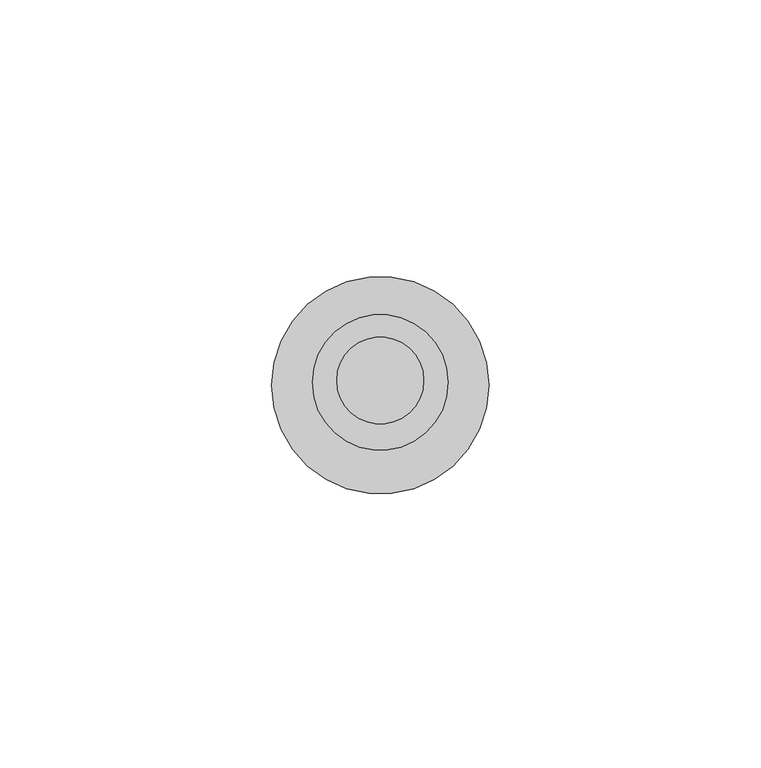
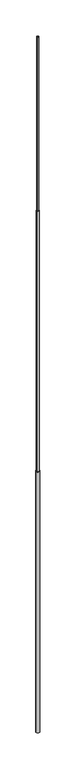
"""IFC4 building model written with IfcOpenShell, lengths in millimetres: proxy geometry, КНС_МачтаМолниеприемная_DKC : NL8000_СтальНержавеющая_8м."""

from ifc_helpers import new_model, si_unit, point, frame, origin, origin_with_axes, origin_2d, place, context, project, spatial, circle_curve, trimmed, segment, composite_curve, outline, extrude, source, transform, mapped, element, save


def security_devices_0df7b225(model_context):
    return source(origin(), model_context, "Body", "SweptSolid", [
        extrude(outline(composite_curve([segment(trimmed(circle_curve(origin_2d(), 8.0), [point((-8.0, 0.0))], [point((8.0, 0.0))], False, "CARTESIAN"), True, "CONTINUOUS"), segment(trimmed(circle_curve(origin_2d(), 8.0), [point((8.0, 0.0))], [point((-8.0, 0.0))], False, "CARTESIAN"), True, "CONTINUOUS")], self_intersect=False)), frame((0.0, 0.0, 6000.0), z_axis=(0.0, 0.0, 1.0), x_axis=(1.0, 0.0, 0.0)), (0.0, 0.0, 1.0), 2000.0),
        extrude(outline(composite_curve([segment(trimmed(circle_curve(origin_2d(), 12.5), [point((-12.5, 0.0))], [point((12.5, 0.0))], False, "CARTESIAN"), True, "CONTINUOUS"), segment(trimmed(circle_curve(origin_2d(), 12.5), [point((12.5, 0.0))], [point((-12.5, 0.0))], False, "CARTESIAN"), True, "CONTINUOUS")], self_intersect=False)), frame((0.0, 0.0, 3000.0), z_axis=(0.0, 0.0, 1.0), x_axis=(1.0, 0.0, 0.0)), (0.0, 0.0, 1.0), 3000.0),
        extrude(outline(composite_curve([segment(trimmed(circle_curve(origin_2d(), 20.0), [point((-20.0, 0.0))], [point((20.0, 0.0))], False, "CARTESIAN"), True, "CONTINUOUS"), segment(trimmed(circle_curve(origin_2d(), 20.0), [point((20.0, 0.0))], [point((-20.0, 0.0))], False, "CARTESIAN"), True, "CONTINUOUS")], self_intersect=False)), origin_with_axes(), (0.0, 0.0, 1.0), 3000.0),
    ])


if __name__ == "__main__":
    model = new_model("IFC4")
    model_context = context("Model", 3, world=origin())
    ifc_project = project(units=[si_unit("LENGTHUNIT", "METRE", prefix="MILLI")], contexts=[model_context])
    site = spatial("IfcSite", under=ifc_project)
    building = spatial("IfcBuilding", under=site)
    placement = place(None, origin())
    security_devices_shape = security_devices_0df7b225(model_context)
    element("IfcBuildingElementProxy", 1, Name="КНС_МачтаМолниеприемная_DKC : NL8000_СтальНержавеющая_8м", ObjectType="КНС_МачтаМолниеприемная_DKC : NL8000_СтальНержавеющая_8м", at=placement, inside=building, context=model_context, shape_type="MappedRepresentation", body=[
        mapped(security_devices_shape, transform((0.0, 0.0, 0.0), x_axis=(1.0, 0.0, 0.0), y_axis=(0.0, 1.0, 0.0), z_axis=(0.0, 0.0, 1.0))),
    ])
    save(model, "model.ifc")
